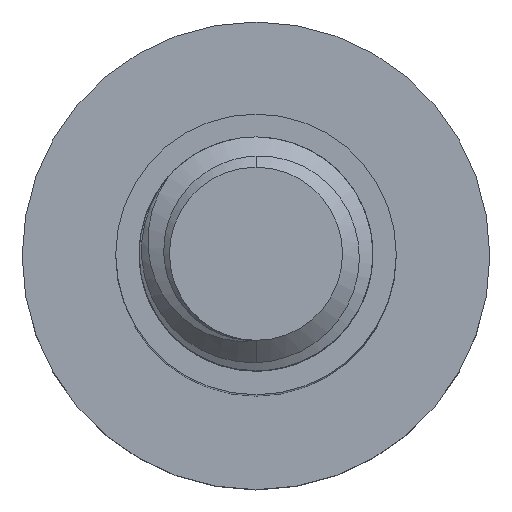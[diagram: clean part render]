
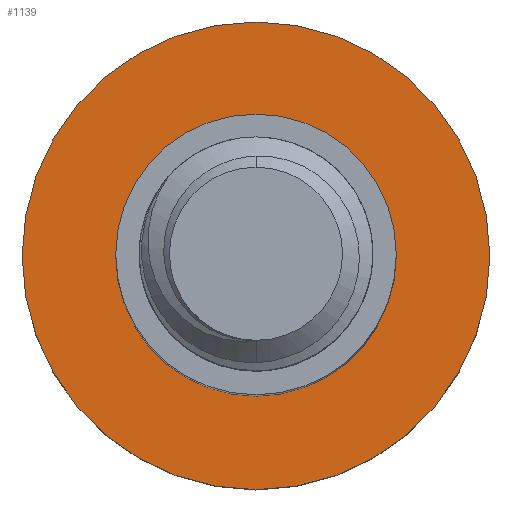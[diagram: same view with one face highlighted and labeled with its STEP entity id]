
A CAD part, top view. The second image highlights one B-rep face of the part: STEP entity #1139.
In plain terms, the highlighted planar face has unit normal (0, 0, 1).
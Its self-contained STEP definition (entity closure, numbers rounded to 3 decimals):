
#17 = VERTEX_POINT ( 'NONE', #687 ) ;
#97 = EDGE_CURVE ( 'NONE', #2320, #2394, #380, .T. ) ;
#260 = CIRCLE ( 'NONE', #3414, 6. ) ;
#300 = CARTESIAN_POINT ( 'NONE',  ( 0., 0., -35. ) ) ;
#303 = ORIENTED_EDGE ( 'NONE', *, *, #1001, .F. ) ;
#342 = DIRECTION ( 'NONE',  ( 0., 0., -1. ) ) ;
#380 = CIRCLE ( 'NONE', #2388, 10. ) ;
#409 = CARTESIAN_POINT ( 'NONE',  ( 6., 0., -35. ) ) ;
#422 = ORIENTED_EDGE ( 'NONE', *, *, #3293, .T. ) ;
#532 = DIRECTION ( 'NONE',  ( -1., 0., 0. ) ) ;
#606 = FACE_BOUND ( 'NONE', #1929, .T. ) ;
#643 = CARTESIAN_POINT ( 'NONE',  ( 10., 0., -35. ) ) ;
#687 = CARTESIAN_POINT ( 'NONE',  ( -6., 0., -35. ) ) ;
#883 = CARTESIAN_POINT ( 'NONE',  ( 0., 0., -35. ) ) ;
#1001 = EDGE_CURVE ( 'NONE', #2394, #2320, #2572, .T. ) ;
#1071 = DIRECTION ( 'NONE',  ( 0., 0., -1. ) ) ;
#1139 = ADVANCED_FACE ( 'NONE', ( #606, #1144 ), #1621, .F. ) ;
#1144 = FACE_OUTER_BOUND ( 'NONE', #1966, .T. ) ;
#1369 = DIRECTION ( 'NONE',  ( 0., 0., -1. ) ) ;
#1432 = DIRECTION ( 'NONE',  ( -1., 0., 0. ) ) ;
#1468 = AXIS2_PLACEMENT_3D ( 'NONE', #300, #1993, #1668 ) ;
#1580 = AXIS2_PLACEMENT_3D ( 'NONE', #3305, #1071, #2723 ) ;
#1621 = PLANE ( 'NONE',  #1863 ) ;
#1668 = DIRECTION ( 'NONE',  ( -1., 0., 0. ) ) ;
#1863 = AXIS2_PLACEMENT_3D ( 'NONE', #2254, #1369, #1912 ) ;
#1912 = DIRECTION ( 'NONE',  ( -1., 0., 0. ) ) ;
#1929 = EDGE_LOOP ( 'NONE', ( #422, #2868 ) ) ;
#1966 = EDGE_LOOP ( 'NONE', ( #2443, #303 ) ) ;
#1993 = DIRECTION ( 'NONE',  ( 0., 0., -1. ) ) ;
#1998 = CARTESIAN_POINT ( 'NONE',  ( -10., 0., -35. ) ) ;
#2140 = VERTEX_POINT ( 'NONE', #409 ) ;
#2175 = CARTESIAN_POINT ( 'NONE',  ( 0., 0., -35. ) ) ;
#2254 = CARTESIAN_POINT ( 'NONE',  ( 0., 0., -35. ) ) ;
#2320 = VERTEX_POINT ( 'NONE', #643 ) ;
#2388 = AXIS2_PLACEMENT_3D ( 'NONE', #2175, #3268, #532 ) ;
#2394 = VERTEX_POINT ( 'NONE', #1998 ) ;
#2443 = ORIENTED_EDGE ( 'NONE', *, *, #97, .F. ) ;
#2506 = EDGE_CURVE ( 'NONE', #2140, #17, #260, .T. ) ;
#2572 = CIRCLE ( 'NONE', #1468, 10. ) ;
#2723 = DIRECTION ( 'NONE',  ( -1., 0., 0. ) ) ;
#2868 = ORIENTED_EDGE ( 'NONE', *, *, #2506, .T. ) ;
#3032 = CIRCLE ( 'NONE', #1580, 6. ) ;
#3268 = DIRECTION ( 'NONE',  ( 0., 0., -1. ) ) ;
#3293 = EDGE_CURVE ( 'NONE', #17, #2140, #3032, .T. ) ;
#3305 = CARTESIAN_POINT ( 'NONE',  ( 0., 0., -35. ) ) ;
#3414 = AXIS2_PLACEMENT_3D ( 'NONE', #883, #342, #1432 ) ;
